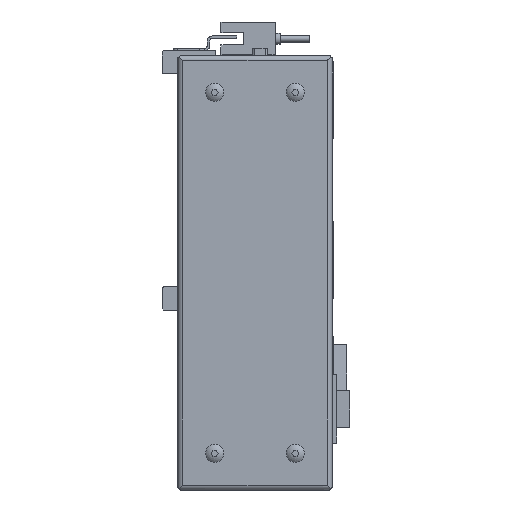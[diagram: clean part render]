
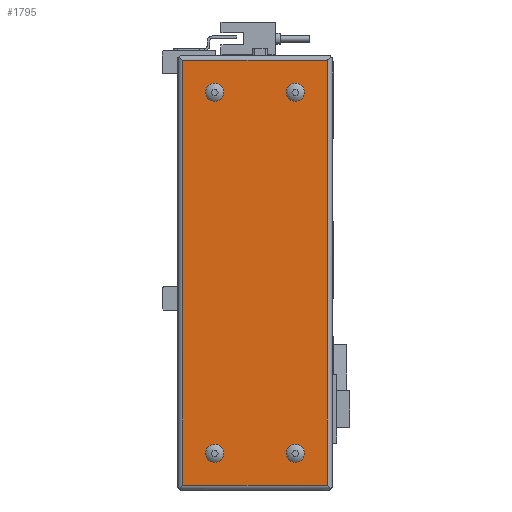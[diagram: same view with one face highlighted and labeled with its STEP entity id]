
A CAD part, left-side view. The second image highlights one B-rep face of the part: STEP entity #1795.
In plain terms, the highlighted planar face has unit normal (-1, 0, 0).
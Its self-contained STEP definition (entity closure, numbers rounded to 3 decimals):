
#1795 = ADVANCED_FACE( '', ( #3797, #3798, #3799, #3800, #3801 ), #3802, .F. );
#3797 = FACE_BOUND( '', #6016, .T. );
#3798 = FACE_BOUND( '', #6017, .T. );
#3799 = FACE_BOUND( '', #6018, .T. );
#3800 = FACE_BOUND( '', #6019, .T. );
#3801 = FACE_OUTER_BOUND( '', #6020, .T. );
#3802 = PLANE( '', #6021 );
#6016 = EDGE_LOOP( '', ( #10989 ) );
#6017 = EDGE_LOOP( '', ( #10990 ) );
#6018 = EDGE_LOOP( '', ( #10991 ) );
#6019 = EDGE_LOOP( '', ( #10992 ) );
#6020 = EDGE_LOOP( '', ( #10993, #10994, #10995, #10996 ) );
#6021 = AXIS2_PLACEMENT_3D( '', #10997, #10998, #10999 );
#10989 = ORIENTED_EDGE( '', *, *, #13983, .F. );
#10990 = ORIENTED_EDGE( '', *, *, #14960, .F. );
#10991 = ORIENTED_EDGE( '', *, *, #14961, .F. );
#10992 = ORIENTED_EDGE( '', *, *, #13495, .F. );
#10993 = ORIENTED_EDGE( '', *, *, #14147, .F. );
#10994 = ORIENTED_EDGE( '', *, *, #14582, .F. );
#10995 = ORIENTED_EDGE( '', *, *, #13250, .T. );
#10996 = ORIENTED_EDGE( '', *, *, #14962, .T. );
#10997 = CARTESIAN_POINT( '', ( -52., 0., 0. ) );
#10998 = DIRECTION( '', ( 1., 0., 0. ) );
#10999 = DIRECTION( '', ( 0., 0., -1. ) );
#13250 = EDGE_CURVE( '', #15937, #15938, #15939, .T. );
#13495 = EDGE_CURVE( '', #16355, #16355, #16356, .F. );
#13983 = EDGE_CURVE( '', #17138, #17138, #17139, .F. );
#14147 = EDGE_CURVE( '', #17388, #17390, #17391, .T. );
#14582 = EDGE_CURVE( '', #15937, #17388, #18039, .T. );
#14960 = EDGE_CURVE( '', #18524, #18524, #18525, .F. );
#14961 = EDGE_CURVE( '', #18526, #18526, #18527, .F. );
#14962 = EDGE_CURVE( '', #15938, #17390, #18528, .T. );
#15937 = VERTEX_POINT( '', #19790 );
#15938 = VERTEX_POINT( '', #19791 );
#15939 = LINE( '', #19792, #19793 );
#16355 = VERTEX_POINT( '', #20409 );
#16356 = CIRCLE( '', #20410, 3.7 );
#17138 = VERTEX_POINT( '', #21533 );
#17139 = CIRCLE( '', #21534, 3.7 );
#17388 = VERTEX_POINT( '', #21943 );
#17390 = VERTEX_POINT( '', #21945 );
#17391 = LINE( '', #21946, #21947 );
#18039 = LINE( '', #22870, #22871 );
#18524 = VERTEX_POINT( '', #23678 );
#18525 = CIRCLE( '', #23679, 3.7 );
#18526 = VERTEX_POINT( '', #23680 );
#18527 = CIRCLE( '', #23681, 3.7 );
#18528 = LINE( '', #23682, #23683 );
#19790 = CARTESIAN_POINT( '', ( -52., 61.5, 49. ) );
#19791 = CARTESIAN_POINT( '', ( -52., 61.5, -124.5 ) );
#19792 = CARTESIAN_POINT( '', ( -52., 61.5, 177.5 ) );
#19793 = VECTOR( '', #24678, 1000. );
#20409 = CARTESIAN_POINT( '', ( -52., 48.5, 32.3 ) );
#20410 = AXIS2_PLACEMENT_3D( '', #24975, #24976, #24977 );
#21533 = CARTESIAN_POINT( '', ( -52., 48.5, -115.2 ) );
#21534 = AXIS2_PLACEMENT_3D( '', #25518, #25519, #25520 );
#21943 = CARTESIAN_POINT( '', ( -52., 2.5, 49. ) );
#21945 = CARTESIAN_POINT( '', ( -52., 2.5, -124.5 ) );
#21946 = CARTESIAN_POINT( '', ( -52., 2.5, 177.5 ) );
#21947 = VECTOR( '', #25697, 1000. );
#22870 = CARTESIAN_POINT( '', ( -52., 177.5, 49. ) );
#22871 = VECTOR( '', #26218, 1000. );
#23678 = CARTESIAN_POINT( '', ( -52., 15.5, 32.3 ) );
#23679 = AXIS2_PLACEMENT_3D( '', #26572, #26573, #26574 );
#23680 = CARTESIAN_POINT( '', ( -52., 15.5, -115.2 ) );
#23681 = AXIS2_PLACEMENT_3D( '', #26575, #26576, #26577 );
#23682 = CARTESIAN_POINT( '', ( -52., 177.5, -124.5 ) );
#23683 = VECTOR( '', #26578, 1000. );
#24678 = DIRECTION( '', ( 0., 0., -1. ) );
#24975 = CARTESIAN_POINT( '', ( -52., 48.5, 36. ) );
#24976 = DIRECTION( '', ( 1., 0., 0. ) );
#24977 = DIRECTION( '', ( 0., 0., -1. ) );
#25518 = CARTESIAN_POINT( '', ( -52., 48.5, -111.5 ) );
#25519 = DIRECTION( '', ( 1., 0., 0. ) );
#25520 = DIRECTION( '', ( 0., 0., -1. ) );
#25697 = DIRECTION( '', ( 0., 0., -1. ) );
#26218 = DIRECTION( '', ( 0., -1., 0. ) );
#26572 = CARTESIAN_POINT( '', ( -52., 15.5, 36. ) );
#26573 = DIRECTION( '', ( 1., 0., 0. ) );
#26574 = DIRECTION( '', ( 0., 0., -1. ) );
#26575 = CARTESIAN_POINT( '', ( -52., 15.5, -111.5 ) );
#26576 = DIRECTION( '', ( 1., 0., 0. ) );
#26577 = DIRECTION( '', ( 0., 0., -1. ) );
#26578 = DIRECTION( '', ( 0., -1., 0. ) );
